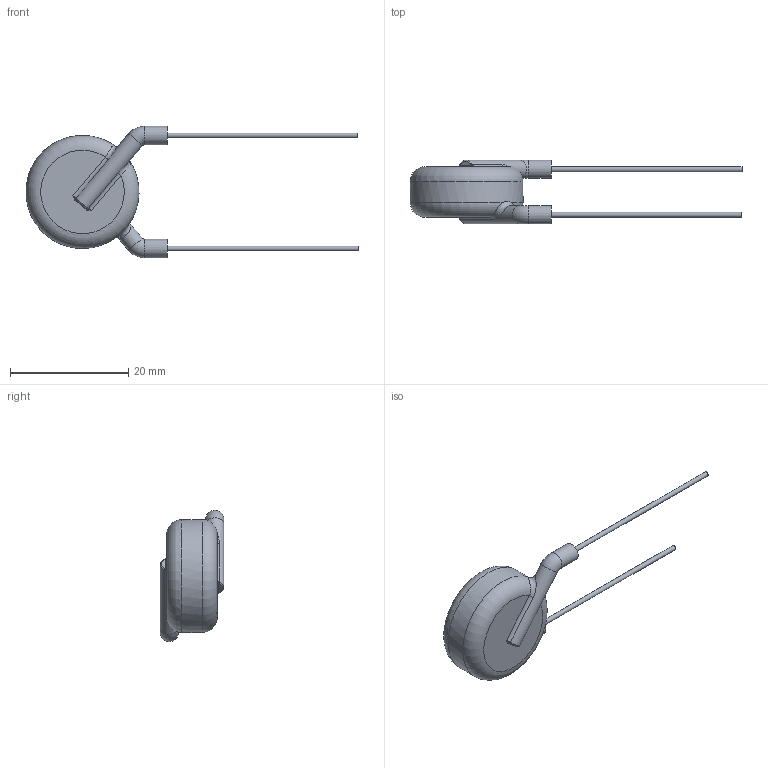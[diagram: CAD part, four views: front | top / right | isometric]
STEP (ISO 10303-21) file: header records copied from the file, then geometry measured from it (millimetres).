
FILE_DESCRIPTION((''),'2;1');
FILE_NAME('I:\Marketing\M6t1\3D-Models\Zchng-Werk-3\Upload for homepage\Ceramite\T3M-15kV\615R150GATT39\615R150GATT39.stp','2015-08-28T11:57:15',(''),(''),'Autodesk Inventor 2013','Autodesk Inventor 2013','');
FILE_SCHEMA(('AUTOMOTIVE_DESIGN { 1 0 10303 214 1 1 1 1 }'));
Length unit declared in the file: centimetre
Products named in the file (1): 615R150GATT39
Bounding box: 56.1 x 10.8 x 22.2 mm (x, y, z)
Volume: 2518.9 mm3; surface area: 1319.4 mm2
Topology: 1 solids, 1 shells, 37 faces, 84 edges, 47 vertices
Faces by surface type: cylinder 13, torus 10, plane 8, bspline 6
Full cylindrical faces by diameter (mm): 0.81 x2, 3.1 x4, 19.1 x1
Entity records: 1357 total; most frequent: CARTESIAN_POINT 566, DIRECTION 152, ORIENTED_EDGE 132, AXIS2_PLACEMENT_3D 70, EDGE_CURVE 66, EDGE_LOOP 48, VERTEX_POINT 42, CIRCLE 38
